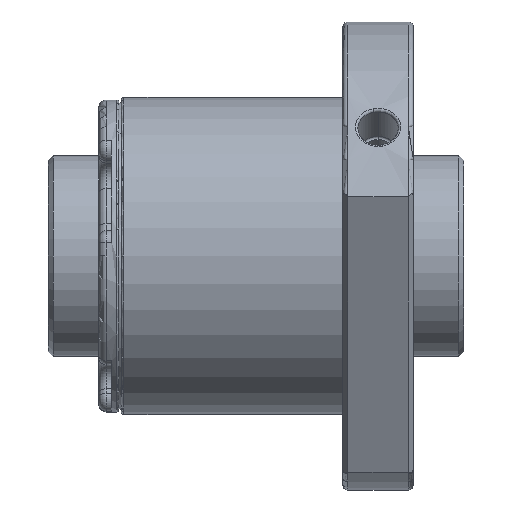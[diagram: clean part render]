
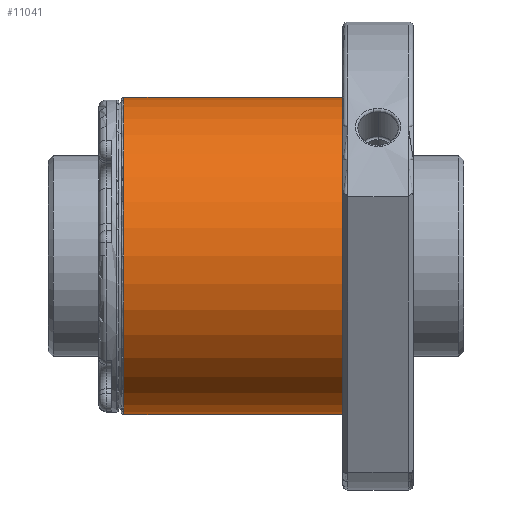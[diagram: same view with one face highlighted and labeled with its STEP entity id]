
A CAD part, front view. The second image highlights one B-rep face of the part: STEP entity #11041.
In plain terms, the highlighted cylindrical face has radius 31.5 mm (diameter 63 mm), a partial arc.
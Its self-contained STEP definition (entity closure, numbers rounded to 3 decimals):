
#334 = CARTESIAN_POINT ( 'NONE',  ( -43.5, 0., 0. ) ) ;
#852 = CARTESIAN_POINT ( 'NONE',  ( -43.5, -31.5, 0. ) ) ;
#1076 = LINE ( 'NONE', #14764, #7938 ) ;
#1079 = ORIENTED_EDGE ( 'NONE', *, *, #2940, .F. ) ;
#1488 = DIRECTION ( 'NONE',  ( 1., 0., 0. ) ) ;
#1546 = DIRECTION ( 'NONE',  ( -1., 0., 0. ) ) ;
#1590 = CARTESIAN_POINT ( 'NONE',  ( 0., 0., -31.5 ) ) ;
#2103 = DIRECTION ( 'NONE',  ( 0., 0., -1. ) ) ;
#2683 = AXIS2_PLACEMENT_3D ( 'NONE', #2881, #4039, #9756 ) ;
#2806 = VERTEX_POINT ( 'NONE', #1590 ) ;
#2881 = CARTESIAN_POINT ( 'NONE',  ( -44., 0., 0. ) ) ;
#2940 = EDGE_CURVE ( 'NONE', #5430, #13445, #3444, .T. ) ;
#2955 = CARTESIAN_POINT ( 'NONE',  ( -44., 0., 31.5 ) ) ;
#3105 = ORIENTED_EDGE ( 'NONE', *, *, #14678, .T. ) ;
#3335 = EDGE_LOOP ( 'NONE', ( #1079, #10695, #10126, #3880, #3105 ) ) ;
#3384 = CIRCLE ( 'NONE', #12327, 31.5 ) ;
#3444 = LINE ( 'NONE', #2955, #4708 ) ;
#3880 = ORIENTED_EDGE ( 'NONE', *, *, #10511, .T. ) ;
#4039 = DIRECTION ( 'NONE',  ( 1., 0., 0. ) ) ;
#4143 = CYLINDRICAL_SURFACE ( 'NONE', #2683, 31.5 ) ;
#4383 = CARTESIAN_POINT ( 'NONE',  ( 0., 0., 31.5 ) ) ;
#4393 = AXIS2_PLACEMENT_3D ( 'NONE', #334, #1488, #11950 ) ;
#4708 = VECTOR ( 'NONE', #14407, 1000. ) ;
#4750 = EDGE_CURVE ( 'NONE', #5430, #11448, #13393, .T. ) ;
#5430 = VERTEX_POINT ( 'NONE', #14391 ) ;
#6465 = VERTEX_POINT ( 'NONE', #6724 ) ;
#6724 = CARTESIAN_POINT ( 'NONE',  ( -43.5, 0., -31.5 ) ) ;
#7740 = AXIS2_PLACEMENT_3D ( 'NONE', #12014, #1546, #9537 ) ;
#7938 = VECTOR ( 'NONE', #11988, 1000. ) ;
#8181 = CIRCLE ( 'NONE', #7740, 31.5 ) ;
#8463 = FACE_OUTER_BOUND ( 'NONE', #3335, .T. ) ;
#9537 = DIRECTION ( 'NONE',  ( 0., 0., -1. ) ) ;
#9756 = DIRECTION ( 'NONE',  ( 0., 0., -1. ) ) ;
#10126 = ORIENTED_EDGE ( 'NONE', *, *, #11401, .T. ) ;
#10153 = CARTESIAN_POINT ( 'NONE',  ( -43.5, 0., 0. ) ) ;
#10511 = EDGE_CURVE ( 'NONE', #6465, #2806, #1076, .T. ) ;
#10695 = ORIENTED_EDGE ( 'NONE', *, *, #4750, .T. ) ;
#11041 = ADVANCED_FACE ( 'NONE', ( #8463 ), #4143, .T. ) ;
#11401 = EDGE_CURVE ( 'NONE', #11448, #6465, #3384, .T. ) ;
#11448 = VERTEX_POINT ( 'NONE', #852 ) ;
#11950 = DIRECTION ( 'NONE',  ( 0., 0., -1. ) ) ;
#11988 = DIRECTION ( 'NONE',  ( 1., 0., 0. ) ) ;
#12014 = CARTESIAN_POINT ( 'NONE',  ( 0., 0., 0. ) ) ;
#12327 = AXIS2_PLACEMENT_3D ( 'NONE', #10153, #13697, #2103 ) ;
#13393 = CIRCLE ( 'NONE', #4393, 31.5 ) ;
#13445 = VERTEX_POINT ( 'NONE', #4383 ) ;
#13697 = DIRECTION ( 'NONE',  ( 1., 0., 0. ) ) ;
#14391 = CARTESIAN_POINT ( 'NONE',  ( -43.5, 0., 31.5 ) ) ;
#14407 = DIRECTION ( 'NONE',  ( 1., 0., 0. ) ) ;
#14678 = EDGE_CURVE ( 'NONE', #2806, #13445, #8181, .T. ) ;
#14764 = CARTESIAN_POINT ( 'NONE',  ( -44., 0., -31.5 ) ) ;
